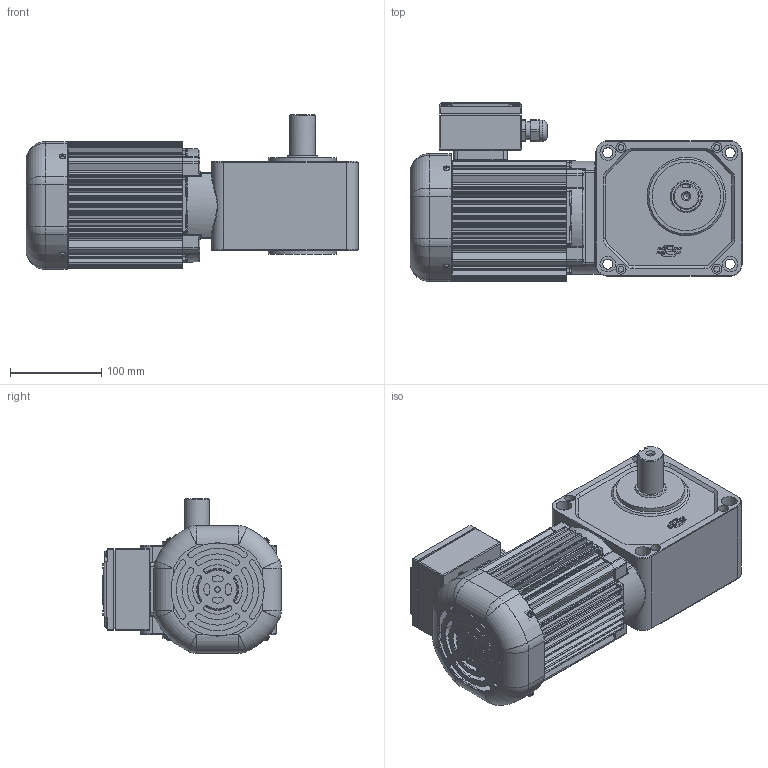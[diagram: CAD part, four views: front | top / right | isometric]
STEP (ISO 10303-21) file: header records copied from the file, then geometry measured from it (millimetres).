
FILE_DESCRIPTION(/* description */ (''),/* implementation_level */ '2;1');
FILE_NAME(/* name */ 'Z:\동력 3D 파일\PCS28L_0.4kW_3D.stp',/* time_stamp */ '2021-11-09T11:13:56+09:00',/* author */ ('jaebok'),/* organization */ (''),/* preprocessor_version */ 'ST-DEVELOPER v18.1',/* originating_system */ 'Autodesk Inventor 2022',/* authorisation */ '');
FILE_SCHEMA (('AUTOMOTIVE_DESIGN { 1 0 10303 214 3 1 1 }'));
Products named in the file (1): 부품49
Bounding box: 363.5 x 196 x 169.5 mm (x, y, z)
Volume: 2240464.8 mm3; surface area: 583930.1 mm2
Topology: 1 solids, 26 shells, 2006 faces, 5185 edges, 3267 vertices
Faces by surface type: plane 858, cylinder 742, torus 165, bspline 109, cone 100, sphere 32
Full cylindrical faces by diameter (mm): 3.242 x5, 3.25 x1, 3.5 x4, 3.6 x4, 4 x21, 5 x13, 5.386 x4, 6 x13, 6.5 x4, 6.647 x1, 7 x12, 8 x1, 10 x1, 11 x8, 12.5 x1, 15 x1, 17 x12, 18 x1, 20 x2, 21 x1, 23.6 x1, 25 x1, 28 x1, 30 x1, 31 x1, 35 x1, 40 x1, 44 x1, 50 x1, 50.562 x1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
Entity records: 67371 total; most frequent: CARTESIAN_POINT 15917, DIRECTION 10670, ORIENTED_EDGE 10252, EDGE_CURVE 5126, AXIS2_PLACEMENT_3D 4114, VERTEX_POINT 3267, LINE 2442, VECTOR 2442
